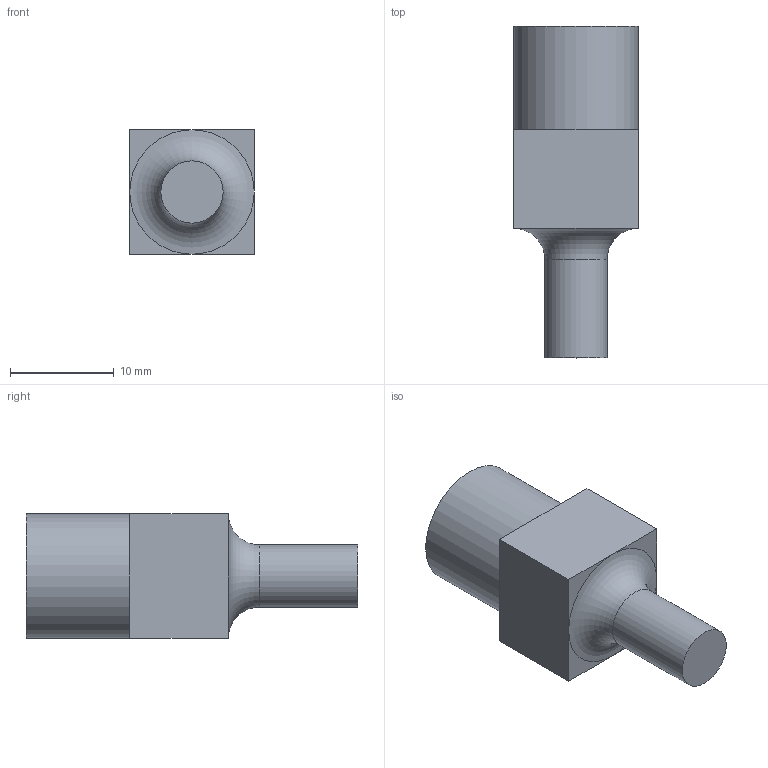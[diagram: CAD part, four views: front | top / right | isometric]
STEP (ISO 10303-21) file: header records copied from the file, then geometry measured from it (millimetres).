
FILE_DESCRIPTION(('STEP AP242'), '1');
FILE_NAME('砐錣鵯', '', ('UNSPECIFIED'), ('UNSPECIFIED'), 'C3D Converter', 'C3D Toolkit', '');
FILE_SCHEMA(('AP242_MANAGED_MODEL_BASED_3D_ENGINEERING_MIM_LF { 1 0 10303 442 1 1 4 }'));
Length unit declared in the file: millimetre
Bounding box: 12 x 32 x 12 mm (x, y, z)
Volume: 2896.9 mm3; surface area: 1336.3 mm2
Topology: 1 solids, 1 shells, 17 faces, 34 edges, 19 vertices
Faces by surface type: plane 14, cylinder 2, torus 1
Full cylindrical faces by diameter (mm): 6 x1, 12 x1
Entity records: 456 total; most frequent: DIRECTION 78, CARTESIAN_POINT 68, ORIENTED_EDGE 62, EDGE_CURVE 31, AXIS2_PLACEMENT_3D 29, EDGE_LOOP 20, LINE 20, VECTOR 20
